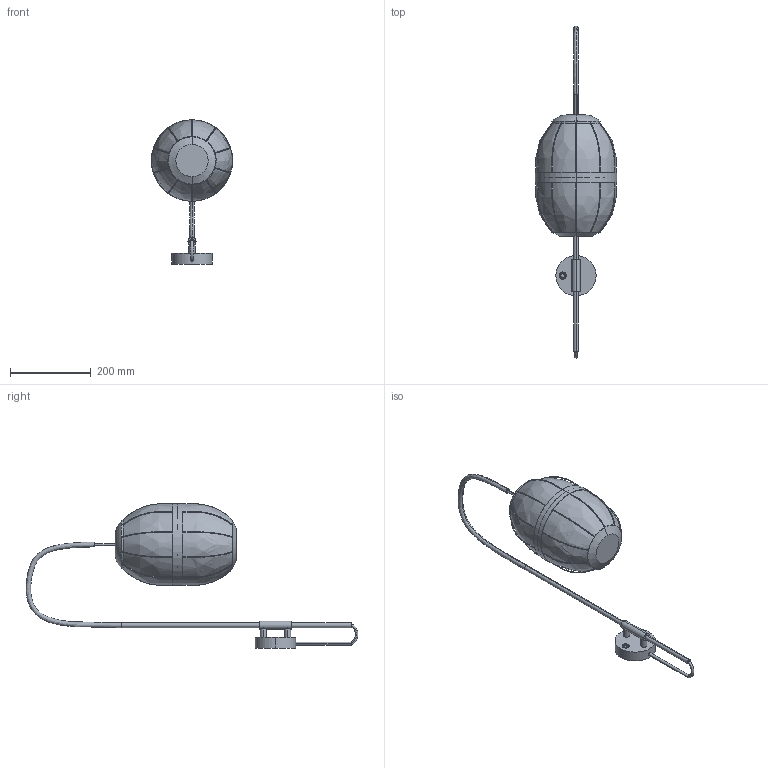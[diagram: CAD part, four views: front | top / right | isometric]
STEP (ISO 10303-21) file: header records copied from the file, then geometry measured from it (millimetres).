
FILE_DESCRIPTION (( 'STEP AP214' ), '1' );
FILE_NAME ('PULL_A1249.STEP', '2025-03-06T15:15:38', ( '' ), ( '' ), 'SwSTEP 2.0', 'SolidWorks 2018', '' );
FILE_SCHEMA (( 'AUTOMOTIVE_DESIGN' ));
Length unit declared in the file: millimetre
Products named in the file (1): PULL_A1249
Bounding box: 202 x 822.26 x 358.05 mm (x, y, z)
Surface area: 515153.7 mm2 (no closed solid volume)
Topology: 0 solids, 31 shells, 194 faces, 378 edges, 250 vertices
Faces by surface type: cylinder 69, plane 67, bspline 50, torus 6, cone 2
Entity records: 18431 total; most frequent: CARTESIAN_POINT 12377, ORIENTED_EDGE 752, DIRECTION 662, EDGE_CURVE 378, AXIS2_PLACEMENT_3D 295, VERTEX_POINT 250, UNCERTAINTY_MEASURE_WITH_UNIT 226, SURFACE_SIDE_STYLE 225
